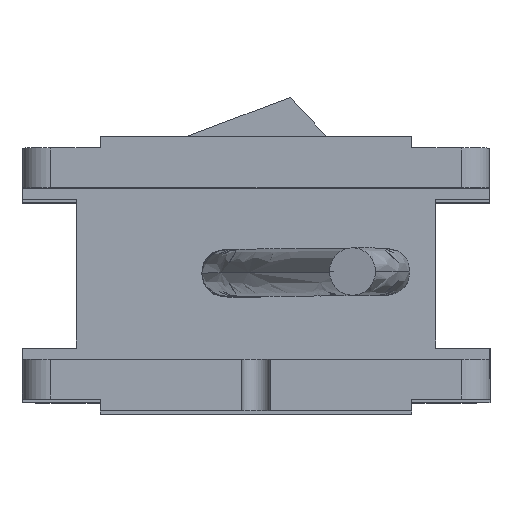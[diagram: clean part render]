
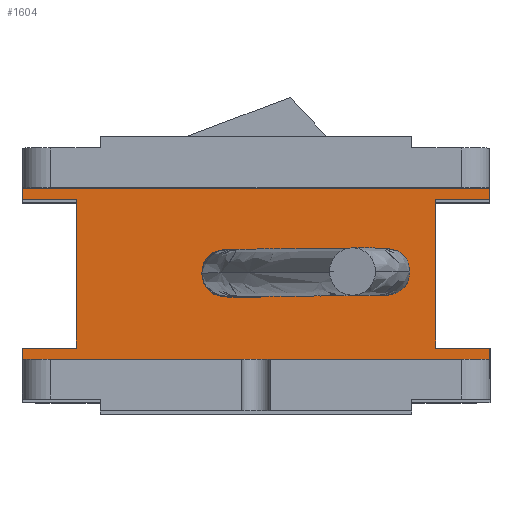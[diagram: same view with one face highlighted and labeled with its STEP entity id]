
A CAD part, top view. The second image highlights one B-rep face of the part: STEP entity #1604.
In plain terms, the highlighted planar face has unit normal (0, 0, 1).
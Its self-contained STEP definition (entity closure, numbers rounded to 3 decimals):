
#46 = EDGE_CURVE ( 'NONE', #1421, #450, #1593, .T. ) ;
#125 = DIRECTION ( 'NONE',  ( 0., -1., 0. ) ) ;
#136 = VERTEX_POINT ( 'NONE', #515 ) ;
#220 = VERTEX_POINT ( 'NONE', #291 ) ;
#221 = CARTESIAN_POINT ( 'NONE',  ( 41., -13., 171.5 ) ) ;
#272 = EDGE_CURVE ( 'NONE', #1343, #2748, #2391, .T. ) ;
#291 = CARTESIAN_POINT ( 'NONE',  ( 41., -15., 171.5 ) ) ;
#304 = ORIENTED_EDGE ( 'NONE', *, *, #3191, .F. ) ;
#344 = ORIENTED_EDGE ( 'NONE', *, *, #1406, .F. ) ;
#354 = LINE ( 'NONE', #3294, #2640 ) ;
#403 = CARTESIAN_POINT ( 'NONE',  ( -31.5, 13., 171.5 ) ) ;
#423 = DIRECTION ( 'NONE',  ( -1., 0., 0. ) ) ;
#443 = VERTEX_POINT ( 'NONE', #403 ) ;
#450 = VERTEX_POINT ( 'NONE', #3378 ) ;
#474 = EDGE_CURVE ( 'NONE', #1421, #1909, #723, .T. ) ;
#502 = AXIS2_PLACEMENT_3D ( 'NONE', #2539, #3114, #1733 ) ;
#515 = CARTESIAN_POINT ( 'NONE',  ( -4.15, 0., 171.5 ) ) ;
#554 = DIRECTION ( 'NONE',  ( -1., 0., 0. ) ) ;
#563 = VECTOR ( 'NONE', #554, 1000. ) ;
#565 = ORIENTED_EDGE ( 'NONE', *, *, #2758, .T. ) ;
#606 = VECTOR ( 'NONE', #3253, 1000. ) ;
#609 = DIRECTION ( 'NONE',  ( 1., 0., 0. ) ) ;
#627 = CARTESIAN_POINT ( 'NONE',  ( 0., 0., 171.5 ) ) ;
#723 = LINE ( 'NONE', #3359, #3411 ) ;
#821 = DIRECTION ( 'NONE',  ( 0., 1., 0. ) ) ;
#836 = LINE ( 'NONE', #2007, #563 ) ;
#908 = ORIENTED_EDGE ( 'NONE', *, *, #3233, .T. ) ;
#911 = LINE ( 'NONE', #2084, #606 ) ;
#953 = CARTESIAN_POINT ( 'NONE',  ( -41., 15., 171.5 ) ) ;
#1044 = VECTOR ( 'NONE', #2234, 1000. ) ;
#1064 = LINE ( 'NONE', #2570, #3248 ) ;
#1117 = DIRECTION ( 'NONE',  ( 0., 0., -1. ) ) ;
#1139 = PLANE ( 'NONE',  #3446 ) ;
#1151 = DIRECTION ( 'NONE',  ( 1., 0., 0. ) ) ;
#1234 = CARTESIAN_POINT ( 'NONE',  ( 41., -15., 171.5 ) ) ;
#1343 = VERTEX_POINT ( 'NONE', #3564 ) ;
#1350 = ORIENTED_EDGE ( 'NONE', *, *, #2166, .F. ) ;
#1360 = FACE_OUTER_BOUND ( 'NONE', #1464, .T. ) ;
#1395 = VERTEX_POINT ( 'NONE', #3266 ) ;
#1406 = EDGE_CURVE ( 'NONE', #1515, #136, #2184, .T. ) ;
#1421 = VERTEX_POINT ( 'NONE', #2078 ) ;
#1431 = LINE ( 'NONE', #2550, #3732 ) ;
#1463 = DIRECTION ( 'NONE',  ( -1., 0., 0. ) ) ;
#1464 = EDGE_LOOP ( 'NONE', ( #1350, #1756, #908, #3734, #2889, #304, #3252, #1636, #3057, #2652, #565, #3130 ) ) ;
#1483 = LINE ( 'NONE', #1234, #1500 ) ;
#1500 = VECTOR ( 'NONE', #1463, 1000. ) ;
#1515 = VERTEX_POINT ( 'NONE', #3449 ) ;
#1544 = DIRECTION ( 'NONE',  ( 0., 0., 1. ) ) ;
#1556 = DIRECTION ( 'NONE',  ( 0., -1., 0. ) ) ;
#1593 = LINE ( 'NONE', #1647, #1044 ) ;
#1604 = ADVANCED_FACE ( 'NONE', ( #1976, #1360 ), #1139, .F. ) ;
#1630 = CARTESIAN_POINT ( 'NONE',  ( 41., 15., 171.5 ) ) ;
#1636 = ORIENTED_EDGE ( 'NONE', *, *, #3264, .F. ) ;
#1643 = VECTOR ( 'NONE', #2410, 1000. ) ;
#1647 = CARTESIAN_POINT ( 'NONE',  ( 41., 15., 171.5 ) ) ;
#1651 = EDGE_LOOP ( 'NONE', ( #344, #3730 ) ) ;
#1694 = EDGE_CURVE ( 'NONE', #220, #1395, #1483, .T. ) ;
#1722 = CARTESIAN_POINT ( 'NONE',  ( 31.5, 13., 171.5 ) ) ;
#1727 = CARTESIAN_POINT ( 'NONE',  ( -41., 13., 171.5 ) ) ;
#1733 = DIRECTION ( 'NONE',  ( 1., 0., 0. ) ) ;
#1756 = ORIENTED_EDGE ( 'NONE', *, *, #272, .F. ) ;
#1812 = CARTESIAN_POINT ( 'NONE',  ( -31.5, -13., 171.5 ) ) ;
#1864 = DIRECTION ( 'NONE',  ( -1., 0., 0. ) ) ;
#1909 = VERTEX_POINT ( 'NONE', #953 ) ;
#1917 = CARTESIAN_POINT ( 'NONE',  ( 31.5, -13., 171.5 ) ) ;
#1976 = FACE_BOUND ( 'NONE', #1651, .T. ) ;
#2007 = CARTESIAN_POINT ( 'NONE',  ( 31.5, 13., 171.5 ) ) ;
#2078 = CARTESIAN_POINT ( 'NONE',  ( 41., 15., 171.5 ) ) ;
#2084 = CARTESIAN_POINT ( 'NONE',  ( -31.5, 13., 171.5 ) ) ;
#2100 = VERTEX_POINT ( 'NONE', #1727 ) ;
#2166 = EDGE_CURVE ( 'NONE', #2748, #443, #911, .T. ) ;
#2180 = CARTESIAN_POINT ( 'NONE',  ( 31.5, -13., 171.5 ) ) ;
#2184 = CIRCLE ( 'NONE', #2672, 4.15 ) ;
#2234 = DIRECTION ( 'NONE',  ( 0., -1., 0. ) ) ;
#2271 = VECTOR ( 'NONE', #125, 1000. ) ;
#2391 = LINE ( 'NONE', #3232, #1643 ) ;
#2395 = CIRCLE ( 'NONE', #502, 4.15 ) ;
#2410 = DIRECTION ( 'NONE',  ( 1., 0., 0. ) ) ;
#2522 = EDGE_CURVE ( 'NONE', #136, #1515, #2395, .T. ) ;
#2539 = CARTESIAN_POINT ( 'NONE',  ( 0., 0., 171.5 ) ) ;
#2550 = CARTESIAN_POINT ( 'NONE',  ( -41., 15., 171.5 ) ) ;
#2570 = CARTESIAN_POINT ( 'NONE',  ( 41., -13., 171.5 ) ) ;
#2640 = VECTOR ( 'NONE', #1556, 1000. ) ;
#2652 = ORIENTED_EDGE ( 'NONE', *, *, #474, .T. ) ;
#2672 = AXIS2_PLACEMENT_3D ( 'NONE', #627, #1544, #609 ) ;
#2738 = LINE ( 'NONE', #1917, #2271 ) ;
#2748 = VERTEX_POINT ( 'NONE', #1812 ) ;
#2758 = EDGE_CURVE ( 'NONE', #1909, #2100, #354, .T. ) ;
#2770 = LINE ( 'NONE', #3396, #3739 ) ;
#2786 = EDGE_CURVE ( 'NONE', #3279, #2814, #2738, .T. ) ;
#2809 = EDGE_CURVE ( 'NONE', #443, #2100, #2770, .T. ) ;
#2814 = VERTEX_POINT ( 'NONE', #2180 ) ;
#2877 = DIRECTION ( 'NONE',  ( 0., -1., 0. ) ) ;
#2889 = ORIENTED_EDGE ( 'NONE', *, *, #2974, .F. ) ;
#2974 = EDGE_CURVE ( 'NONE', #3177, #220, #3501, .T. ) ;
#3057 = ORIENTED_EDGE ( 'NONE', *, *, #46, .F. ) ;
#3114 = DIRECTION ( 'NONE',  ( 0., 0., 1. ) ) ;
#3128 = DIRECTION ( 'NONE',  ( 0., -1., 0. ) ) ;
#3130 = ORIENTED_EDGE ( 'NONE', *, *, #2809, .F. ) ;
#3177 = VERTEX_POINT ( 'NONE', #221 ) ;
#3191 = EDGE_CURVE ( 'NONE', #2814, #3177, #1064, .T. ) ;
#3232 = CARTESIAN_POINT ( 'NONE',  ( -31.5, -13., 171.5 ) ) ;
#3233 = EDGE_CURVE ( 'NONE', #1343, #1395, #1431, .T. ) ;
#3248 = VECTOR ( 'NONE', #1151, 1000. ) ;
#3252 = ORIENTED_EDGE ( 'NONE', *, *, #2786, .F. ) ;
#3253 = DIRECTION ( 'NONE',  ( 0., 1., 0. ) ) ;
#3256 = VECTOR ( 'NONE', #3128, 1000. ) ;
#3264 = EDGE_CURVE ( 'NONE', #450, #3279, #836, .T. ) ;
#3266 = CARTESIAN_POINT ( 'NONE',  ( -41., -15., 171.5 ) ) ;
#3279 = VERTEX_POINT ( 'NONE', #1722 ) ;
#3294 = CARTESIAN_POINT ( 'NONE',  ( -41., 15., 171.5 ) ) ;
#3359 = CARTESIAN_POINT ( 'NONE',  ( 41., 15., 171.5 ) ) ;
#3378 = CARTESIAN_POINT ( 'NONE',  ( 41., 13., 171.5 ) ) ;
#3396 = CARTESIAN_POINT ( 'NONE',  ( -41., 13., 171.5 ) ) ;
#3411 = VECTOR ( 'NONE', #1864, 1000. ) ;
#3416 = CARTESIAN_POINT ( 'NONE',  ( 41., 15., 171.5 ) ) ;
#3446 = AXIS2_PLACEMENT_3D ( 'NONE', #1630, #1117, #821 ) ;
#3449 = CARTESIAN_POINT ( 'NONE',  ( 4.15, 0., 171.5 ) ) ;
#3501 = LINE ( 'NONE', #3416, #3256 ) ;
#3564 = CARTESIAN_POINT ( 'NONE',  ( -41., -13., 171.5 ) ) ;
#3730 = ORIENTED_EDGE ( 'NONE', *, *, #2522, .F. ) ;
#3732 = VECTOR ( 'NONE', #2877, 1000. ) ;
#3734 = ORIENTED_EDGE ( 'NONE', *, *, #1694, .F. ) ;
#3739 = VECTOR ( 'NONE', #423, 1000. ) ;
